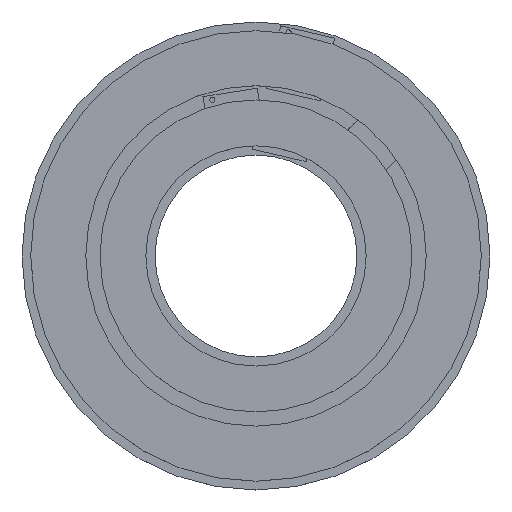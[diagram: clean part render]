
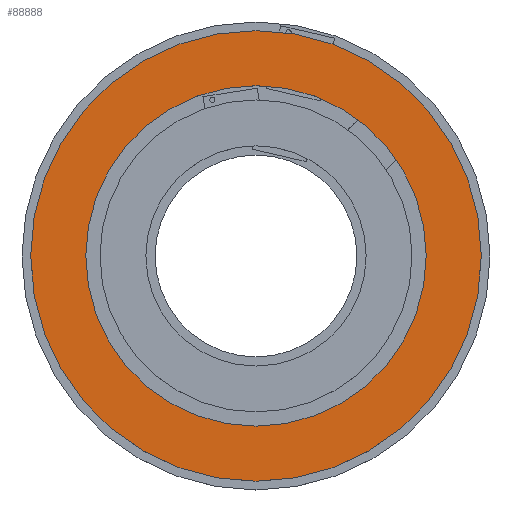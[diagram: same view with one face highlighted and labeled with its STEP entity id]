
A CAD part, top view. The second image highlights one B-rep face of the part: STEP entity #88888.
In plain terms, the highlighted planar face has unit normal (0, 0, 1) as drawn and (0, 0, -1) by its records, which use the part's own axes.
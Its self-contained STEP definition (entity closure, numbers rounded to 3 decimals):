
#88762=CARTESIAN_POINT('',(0.,0.,-1.2));
#88763=DIRECTION('',(0.,0.,1.));
#88764=DIRECTION('',(1.,0.,0.));
#88765=AXIS2_PLACEMENT_3D('',#88762,#88763,#88764);
#88767=CARTESIAN_POINT('',(0.,0.,-1.2));
#88768=DIRECTION('',(0.,0.,1.));
#88769=DIRECTION('',(-1.,0.,0.));
#88770=AXIS2_PLACEMENT_3D('',#88767,#88768,#88769);
#88772=CARTESIAN_POINT('',(0.,0.,-1.2));
#88773=DIRECTION('',(0.,0.,-1.));
#88774=DIRECTION('',(1.,0.,0.));
#88775=AXIS2_PLACEMENT_3D('',#88772,#88773,#88774);
#88777=CARTESIAN_POINT('',(0.,0.,-1.2));
#88778=DIRECTION('',(0.,0.,-1.));
#88779=DIRECTION('',(-1.,0.,0.));
#88780=AXIS2_PLACEMENT_3D('',#88777,#88778,#88779);
#88794=CARTESIAN_POINT('',(-24.55,0.,-1.2));
#88795=VERTEX_POINT('',#88794);
#88796=CARTESIAN_POINT('',(24.55,0.,-1.2));
#88797=VERTEX_POINT('',#88796);
#88802=CARTESIAN_POINT('',(18.55,0.,-1.2));
#88803=CARTESIAN_POINT('',(-18.55,0.,-1.2));
#88804=VERTEX_POINT('',#88802);
#88805=VERTEX_POINT('',#88803);
#88873=CARTESIAN_POINT('',(0.,0.,-1.2));
#88874=DIRECTION('',(0.,0.,-1.));
#88875=DIRECTION('',(-1.,0.,0.));
#88876=AXIS2_PLACEMENT_3D('',#88873,#88874,#88875);
#88877=PLANE('',#88876);
#88878=ORIENTED_EDGE('',*,*,#88815,.T.);
#88879=ORIENTED_EDGE('',*,*,#88860,.T.);
#88880=EDGE_LOOP('',(#88878,#88879));
#88881=FACE_OUTER_BOUND('',#88880,.F.);
#88883=ORIENTED_EDGE('',*,*,#88882,.T.);
#88885=ORIENTED_EDGE('',*,*,#88884,.T.);
#88886=EDGE_LOOP('',(#88883,#88885));
#88887=FACE_BOUND('',#88886,.F.);
#88888=ADVANCED_FACE('',(#88881,#88887),#88877,.T.);
#88766=CIRCLE('',#88765,24.55);
#88771=CIRCLE('',#88770,24.55);
#88776=CIRCLE('',#88775,18.55);
#88781=CIRCLE('',#88780,18.55);
#88815=EDGE_CURVE('',#88797,#88795,#88766,.T.);
#88860=EDGE_CURVE('',#88795,#88797,#88771,.T.);
#88882=EDGE_CURVE('',#88804,#88805,#88776,.T.);
#88884=EDGE_CURVE('',#88805,#88804,#88781,.T.);
